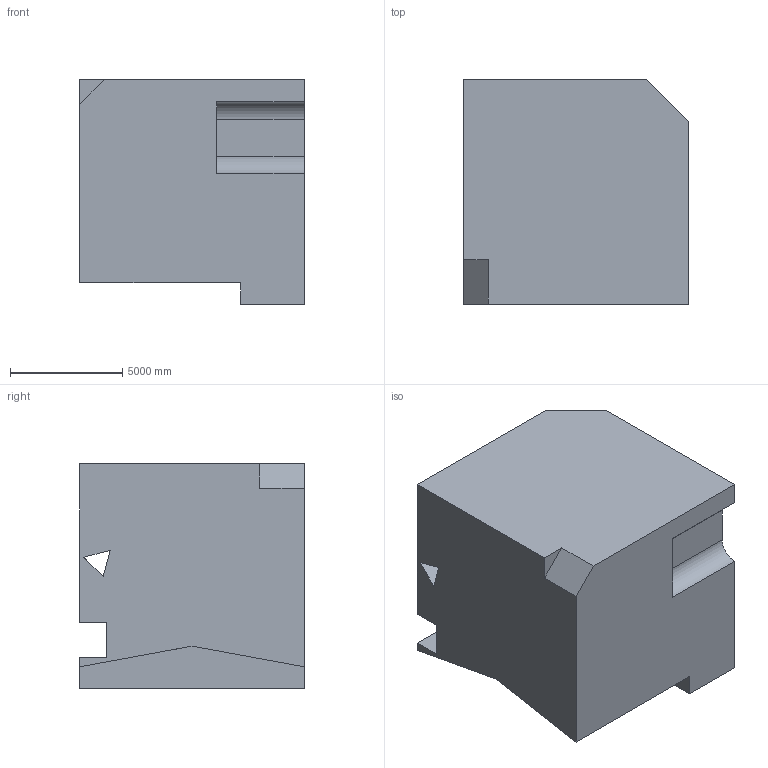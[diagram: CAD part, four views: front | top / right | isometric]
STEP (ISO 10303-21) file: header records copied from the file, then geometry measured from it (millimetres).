
FILE_DESCRIPTION (( 'STEP AP203' ), '1' );
FILE_NAME ('90.STEP', '2022-09-02T14:10:26', ( 'user' ), ( '' ), 'SwSTEP 2.0', 'SolidWorks 2021', '' );
FILE_SCHEMA (( 'CONFIG_CONTROL_DESIGN' ));
Length unit declared in the file: centimetre
Products named in the file (1): 90
Bounding box: 10000 x 10000 x 10000 mm (x, y, z)
Volume: 809910564960.9 mm3; surface area: 732576204 mm2
Topology: 1 solids, 1 shells, 48 faces, 141 edges, 94 vertices
Faces by surface type: plane 46, cylinder 2
Entity records: 1658 total; most frequent: CARTESIAN_POINT 284, ORIENTED_EDGE 282, DIRECTION 243, EDGE_CURVE 141, VECTOR 137, LINE 137, VERTEX_POINT 94, EDGE_LOOP 53
